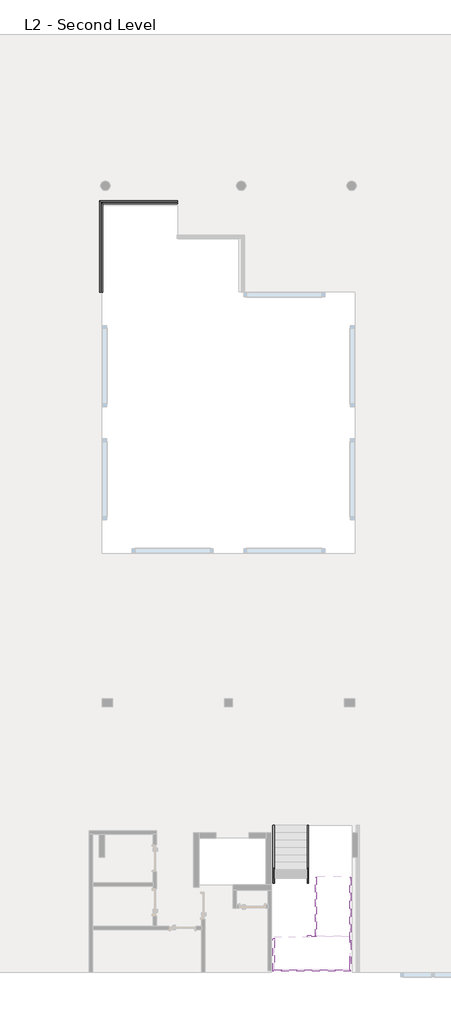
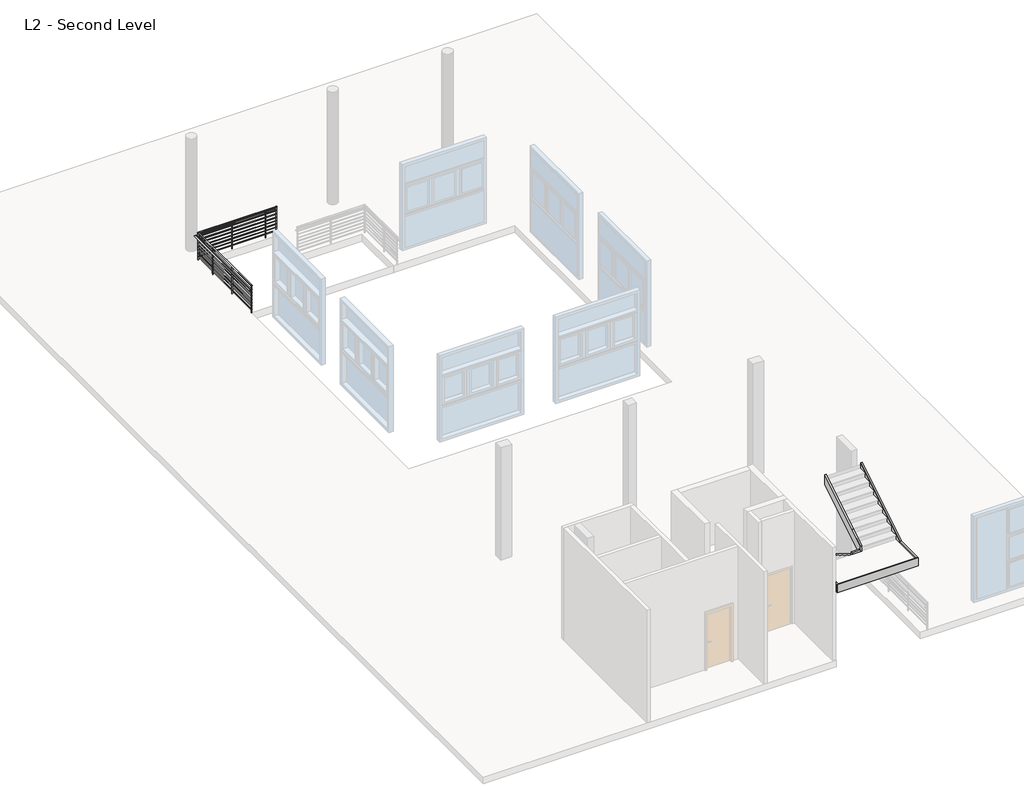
# One storey, part 3 of 3: 8 members, 1 railing.
"""IFC4 building model written with IfcOpenShell, lengths in millimetres."""

from ifc_helpers import new_model, si_unit, point, frame, frame_2d, origin, place, context, project, spatial, polyline, circle_curve, ellipse_curve, trimmed, segment, composite_curve, outline, extrude, faceted_brep, element, save
from ifc_brep_helpers import plane_surface, cylinder_surface, advanced_brep

model = new_model("IFC4")

# Units and contexts
model_context = context("Model", 3, world=origin())
ifc_project = project(units=[si_unit("LENGTHUNIT", "METRE", prefix="MILLI")], contexts=[model_context])

# Site, building, storey
site = spatial("IfcSite", under=ifc_project)
building = spatial("IfcBuilding", under=site)
storey = spatial("IfcBuildingStorey", under=building, Name="L2 - Second Level", Elevation=4470.4)

# Members
placement = place(None, origin())
element("IfcMember", 1, ObjectType="Stringer - 2\" Width", at=placement, inside=storey, context=model_context, shape_type="Brep", body=[
    faceted_brep([(17449.8060671, 6197.5997725, 4470.4), (17500.6060671, 6197.5997725, 4470.4), (17500.6060671, 5962.9100242, 4470.4), (17449.8060671, 5962.9100242, 4470.4), (17449.8060671, 6197.5997725, 4683.6566451), (17500.6060671, 6197.5997725, 4683.6566451), (17449.8060671, 2057.3997725, 7243.0530088), (17500.6060671, 2057.399805, 7243.0529887), (17500.6060671, 2057.399805, 6884.7154082), (17449.8060671, 2057.3997725, 6884.7154283)], [[[0, 1, 2, 3]], [[4, 5, 1, 0]], [[5, 4, 6, 7]], [[1, 5, 7, 8, 2]], [[4, 0, 3, 9, 6]], [[2, 8, 9, 3]], [[6, 9, 8, 7]]]),
])
element("IfcMember", 2, ObjectType="Stringer - 2\" Width", at=placement, inside=storey, context=model_context, shape_type="SweptSolid", body=[
    extrude(outline(polyline([(6197.5997725, 4683.6566451), (6197.5997725, 4470.4), (5962.9100242, 4470.4), (1862.3041418, 7005.32), (1948.9090514, 7310.12), (6197.5997725, 4683.6566451)])), frame((16167.1060672, 0.0, 0.0), z_axis=(1.0, 0.0, 0.0), x_axis=(0.0, 1.0, 0.0)), (0.0, 0.0, 1.0), 50.8),
])
element("IfcMember", 3, ObjectType="Stringer - 2\" Width", at=placement, inside=storey, context=model_context, shape_type="Brep", body=[
    faceted_brep([(17805.4060672, 4241.8, 8828.9366451), (17805.4060672, 4241.8, 8470.5990647), (17754.6060672, 4241.8, 8470.5990647), (17754.6060672, 4241.8, 8828.9366451), (17754.6060672, 2006.5999675, 7447.176625), (17805.4060672, 2006.6, 7447.1766451), (17754.6060672, 2006.5999675, 7088.8390446), (17805.4060672, 2006.6, 7088.8390647)], [[[0, 1, 2, 3]], [[4, 5, 0, 3]], [[6, 4, 3, 2]], [[7, 6, 2, 1]], [[5, 7, 1, 0]], [[5, 4, 6, 7]]]),
])
element("IfcMember", 4, ObjectType="Stringer - 2\" Width", at=placement, inside=storey, context=model_context, shape_type="SweptSolid", body=[
    extrude(outline(polyline([(1871.4956307, 7005.32), (1784.8907211, 7310.12), (4241.8, 8828.9366451), (4241.8, 8470.5990647), (1871.4956307, 7005.32)])), frame((19057.4642027, 0.0, 0.0), z_axis=(1.0, 0.0, 0.0), x_axis=(0.0, 1.0, 0.0)), (0.0, 0.0, 1.0), 50.8),
])
element("IfcMember", 5, ObjectType="Stringer - 2\" Width", at=placement, inside=storey, context=model_context, shape_type="SweptSolid", body=[
    extrude(outline(polyline([(17754.6060672, 2057.3999675), (17754.6060672, 2006.5999675), (17449.8060671, 2006.5997725), (17449.8060671, 2057.3997725), (17754.6060672, 2057.3999675)])), frame((0.0, 0.0, 7005.32), z_axis=(0.0, 0.0, 1.0), x_axis=(1.0, 0.0, 0.0)), (0.0, 0.0, 1.0), 304.8),
])
element("IfcMember", 6, ObjectType="Stringer - 2\" Width", at=placement, inside=storey, context=model_context, shape_type="Brep", body=[
    faceted_brep([(16217.9060672, 1948.9090514, 7310.12), (16167.1060672, 1948.9090514, 7310.12), (16167.1060672, 704.85, 7310.12), (16217.9060672, 755.65, 7310.12), (16217.9060672, 1862.3041418, 7005.32), (16217.9060672, 755.65, 7005.32), (16167.1060672, 1862.3041418, 7005.32), (16167.1060672, 704.85, 7005.32)], [[[0, 1, 2, 3]], [[4, 0, 3, 5]], [[6, 4, 5, 7]], [[1, 6, 7, 2]], [[1, 0, 4, 6]], [[2, 7, 5, 3]]]),
])
element("IfcMember", 7, ObjectType="Stringer - 2\" Width", at=placement, inside=storey, context=model_context, shape_type="SweptSolid", body=[
    extrude(outline(polyline([(16167.1060672, 704.85), (16217.9060672, 755.65), (19057.4642027, 755.65), (19108.2642027, 704.85), (16167.1060672, 704.85)])), frame((0.0, 0.0, 7005.32), z_axis=(0.0, 0.0, 1.0), x_axis=(1.0, 0.0, 0.0)), (0.0, 0.0, 1.0), 304.8),
])
element("IfcMember", 8, ObjectType="Stringer - 2\" Width", at=placement, inside=storey, context=model_context, shape_type="Brep", body=[
    faceted_brep([(19057.4642027, 755.65, 7310.12), (19108.2642027, 704.85, 7310.12), (19108.2642027, 1784.8907211, 7310.12), (19057.4642027, 1784.8907211, 7310.12), (19057.4642027, 755.65, 7005.32), (19057.4642027, 1871.4956307, 7005.32), (19108.2642027, 704.85, 7005.32), (19108.2642027, 1871.4956307, 7005.32)], [[[0, 1, 2, 3]], [[4, 0, 3, 5]], [[6, 4, 5, 7]], [[1, 6, 7, 2]], [[1, 0, 4, 6]], [[2, 7, 5, 3]]]),
])

# Railing
element("IfcRailing", 9, ObjectType="Guardrail - Pipe", at=placement, inside=storey, context=model_context, shape_type="SolidModel", body=[
    advanced_brep(
    [(9645.6500088, 26314.3998757, 5365.75), (9607.5500088, 26314.3998757, 5365.75), (9645.6500088, 29724.3498757, 5365.75), (9607.5500088, 29762.4498757, 5365.75), (12547.6000088, 29724.3498757, 5365.75), (12547.6000088, 29762.4498757, 5365.75)],
    [
        (0, 1, circle_curve(frame((9626.6000088, 26314.3998757, 5365.75), z_axis=(0.0, -1.0, 0.0), x_axis=(-1.0, 0.0, 0.0)), 19.05)),
        (1, 0, circle_curve(frame((9626.6000088, 26314.3998757, 5365.75), z_axis=(0.0, -1.0, 0.0), x_axis=(-1.0, 0.0, 0.0)), 19.05)),
        (0, 2),
        (2, 3, ellipse_curve(frame((9626.6000088, 29743.3998757, 5365.75), z_axis=(-0.7071067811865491, -0.7071067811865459, 0.0), x_axis=(0.7071067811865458, -0.7071067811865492, 0.0)), 26.9407684, 19.05)),
        (3, 1),
        (3, 2, ellipse_curve(frame((9626.6000088, 29743.3998757, 5365.75), z_axis=(-0.7071067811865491, -0.7071067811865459, 0.0), x_axis=(0.7071067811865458, -0.7071067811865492, 0.0)), 26.9407684, 19.05)),
        (4, 5, circle_curve(frame((12547.6000088, 29743.3998757, 5365.75), z_axis=(1.0, 0.0, 0.0), x_axis=(0.0, 1.0, 0.0)), 19.05)),
        (5, 4, circle_curve(frame((12547.6000088, 29743.3998757, 5365.75), z_axis=(1.0, 0.0, 0.0), x_axis=(0.0, 1.0, 0.0)), 19.05)),
        (2, 4),
        (5, 3),
    ],
    [
        plane_surface(frame((9626.6000088, 26314.3998757, 5384.8), z_axis=(0.0, -1.0, 0.0), x_axis=(0.0, 0.0, 1.0))),
        cylinder_surface(frame((9626.6000088, 26314.3998757, 5365.75), z_axis=(0.0, -1.0, 0.0), x_axis=(-1.0, 0.0, 0.0)), 19.05),
        plane_surface(frame((12547.6000088, 29743.3998757, 5384.8), z_axis=(1.0, 0.0, 0.0), x_axis=(0.0, 1.0, 0.0))),
        cylinder_surface(frame((9626.6000088, 29743.3998757, 5365.75), z_axis=(-1.0, 0.0, 0.0), x_axis=(0.0, 1.0, 0.0)), 19.05),
    ],
    [
        (0, [[1, 2]]),
        (1, [[-1, 3, 4, 5]]),
        (1, [[-2, -5, 6, -3]]),
        (2, [[7, 8]]),
        (3, [[-4, 9, -8, 10]]),
        (3, [[-6, -10, -7, -9]]),
    ],
),
    advanced_brep(
    [(9721.8500088, 26314.3998757, 5518.15), (9683.7500088, 26314.3998757, 5518.15), (9721.8500088, 29648.1498757, 5518.15), (9683.7500088, 29686.2498757, 5518.15), (12547.6000088, 29648.1498757, 5518.15), (12547.6000088, 29686.2498757, 5518.15)],
    [
        (0, 1, circle_curve(frame((9702.8000088, 26314.3998757, 5518.15), z_axis=(0.0, -1.0, 0.0), x_axis=(-1.0, 0.0, 0.0)), 19.05)),
        (1, 0, circle_curve(frame((9702.8000088, 26314.3998757, 5518.15), z_axis=(0.0, -1.0, 0.0), x_axis=(-1.0, 0.0, 0.0)), 19.05)),
        (0, 2),
        (2, 3, ellipse_curve(frame((9702.8000088, 29667.1998757, 5518.15), z_axis=(-0.7071067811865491, -0.7071067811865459, 0.0), x_axis=(0.7071067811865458, -0.7071067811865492, 0.0)), 26.9407684, 19.05)),
        (3, 1),
        (3, 2, ellipse_curve(frame((9702.8000088, 29667.1998757, 5518.15), z_axis=(-0.7071067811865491, -0.7071067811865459, 0.0), x_axis=(0.7071067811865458, -0.7071067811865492, 0.0)), 26.9407684, 19.05)),
        (4, 5, circle_curve(frame((12547.6000088, 29667.1998757, 5518.15), z_axis=(1.0, 0.0, 0.0), x_axis=(0.0, 1.0, 0.0)), 19.05)),
        (5, 4, circle_curve(frame((12547.6000088, 29667.1998757, 5518.15), z_axis=(1.0, 0.0, 0.0), x_axis=(0.0, 1.0, 0.0)), 19.05)),
        (2, 4),
        (5, 3),
    ],
    [
        plane_surface(frame((9702.8000088, 26314.3998757, 5537.2), z_axis=(0.0, -1.0, 0.0), x_axis=(0.0, 0.0, 1.0))),
        cylinder_surface(frame((9702.8000088, 26314.3998757, 5518.15), z_axis=(0.0, -1.0, 0.0), x_axis=(-1.0, 0.0, 0.0)), 19.05),
        plane_surface(frame((12547.6000088, 29667.1998757, 5537.2), z_axis=(1.0, 0.0, 0.0), x_axis=(0.0, 1.0, 0.0))),
        cylinder_surface(frame((9702.8000088, 29667.1998757, 5518.15), z_axis=(-1.0, 0.0, 0.0), x_axis=(0.0, 1.0, 0.0)), 19.05),
    ],
    [
        (0, [[1, 2]]),
        (1, [[-1, 3, 4, 5]]),
        (1, [[-2, -5, 6, -3]]),
        (2, [[7, 8]]),
        (3, [[-4, 9, -8, 10]]),
        (3, [[-6, -10, -7, -9]]),
    ],
),
    advanced_brep(
    [(9690.1000088, 26314.3998757, 5372.1), (9715.5000088, 26314.3998757, 5372.1), (9690.1000088, 29679.8998757, 5372.1), (9715.5000088, 29654.4998757, 5372.1), (12547.6000088, 29679.8998757, 5372.1), (12547.6000088, 29654.4998757, 5372.1)],
    [
        (0, 1, circle_curve(frame((9702.8000088, 26314.3998757, 5372.1), z_axis=(0.0, -1.0, 0.0), x_axis=(1.0, 0.0, 0.0)), 12.7)),
        (1, 0, circle_curve(frame((9702.8000088, 26314.3998757, 5372.1), z_axis=(0.0, -1.0, 0.0), x_axis=(1.0, 0.0, 0.0)), 12.7)),
        (0, 2),
        (2, 3, ellipse_curve(frame((9702.8000088, 29667.1998757, 5372.1), z_axis=(-0.7071067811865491, -0.7071067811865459, 0.0), x_axis=(0.7071067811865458, -0.7071067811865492, 0.0)), 17.9605122, 12.7)),
        (3, 1),
        (3, 2, ellipse_curve(frame((9702.8000088, 29667.1998757, 5372.1), z_axis=(-0.7071067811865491, -0.7071067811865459, 0.0), x_axis=(0.7071067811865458, -0.7071067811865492, 0.0)), 17.9605122, 12.7)),
        (4, 5, circle_curve(frame((12547.6000088, 29667.1998757, 5372.1), z_axis=(1.0, 0.0, 0.0), x_axis=(0.0, -1.0, 0.0)), 12.7)),
        (5, 4, circle_curve(frame((12547.6000088, 29667.1998757, 5372.1), z_axis=(1.0, 0.0, 0.0), x_axis=(0.0, -1.0, 0.0)), 12.7)),
        (2, 4),
        (5, 3),
    ],
    [
        plane_surface(frame((9702.8000088, 26314.3998757, 5384.8), z_axis=(0.0, -1.0, 0.0), x_axis=(0.0, 0.0, 1.0))),
        cylinder_surface(frame((9702.8000088, 26314.3998757, 5372.1), z_axis=(0.0, -1.0, 0.0), x_axis=(1.0, 0.0, 0.0)), 12.7),
        plane_surface(frame((12547.6000088, 29667.1998757, 5384.8), z_axis=(1.0, 0.0, 0.0), x_axis=(0.0, 1.0, 0.0))),
        cylinder_surface(frame((9702.8000088, 29667.1998757, 5372.1), z_axis=(-1.0, 0.0, 0.0), x_axis=(0.0, -1.0, 0.0)), 12.7),
    ],
    [
        (0, [[1, 2]]),
        (1, [[-1, 3, 4, 5]]),
        (1, [[-2, -5, 6, -3]]),
        (2, [[7, 8]]),
        (3, [[-4, 9, -8, 10]]),
        (3, [[-6, -10, -7, -9]]),
    ],
),
    advanced_brep(
    [(9690.1000088, 26314.3998757, 5245.1), (9715.5000088, 26314.3998757, 5245.1), (9690.1000088, 29679.8998757, 5245.1), (9715.5000088, 29654.4998757, 5245.1), (12547.6000088, 29679.8998757, 5245.1), (12547.6000088, 29654.4998757, 5245.1)],
    [
        (0, 1, circle_curve(frame((9702.8000088, 26314.3998757, 5245.1), z_axis=(0.0, -1.0, 0.0), x_axis=(1.0, 0.0, 0.0)), 12.7)),
        (1, 0, circle_curve(frame((9702.8000088, 26314.3998757, 5245.1), z_axis=(0.0, -1.0, 0.0), x_axis=(1.0, 0.0, 0.0)), 12.7)),
        (0, 2),
        (2, 3, ellipse_curve(frame((9702.8000088, 29667.1998757, 5245.1), z_axis=(-0.7071067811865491, -0.7071067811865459, 0.0), x_axis=(0.7071067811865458, -0.7071067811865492, 0.0)), 17.9605122, 12.7)),
        (3, 1),
        (3, 2, ellipse_curve(frame((9702.8000088, 29667.1998757, 5245.1), z_axis=(-0.7071067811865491, -0.7071067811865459, 0.0), x_axis=(0.7071067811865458, -0.7071067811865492, 0.0)), 17.9605122, 12.7)),
        (4, 5, circle_curve(frame((12547.6000088, 29667.1998757, 5245.1), z_axis=(1.0, 0.0, 0.0), x_axis=(0.0, -1.0, 0.0)), 12.7)),
        (5, 4, circle_curve(frame((12547.6000088, 29667.1998757, 5245.1), z_axis=(1.0, 0.0, 0.0), x_axis=(0.0, -1.0, 0.0)), 12.7)),
        (2, 4),
        (5, 3),
    ],
    [
        plane_surface(frame((9702.8000088, 26314.3998757, 5257.8), z_axis=(0.0, -1.0, 0.0), x_axis=(0.0, 0.0, 1.0))),
        cylinder_surface(frame((9702.8000088, 26314.3998757, 5245.1), z_axis=(0.0, -1.0, 0.0), x_axis=(1.0, 0.0, 0.0)), 12.7),
        plane_surface(frame((12547.6000088, 29667.1998757, 5257.8), z_axis=(1.0, 0.0, 0.0), x_axis=(0.0, 1.0, 0.0))),
        cylinder_surface(frame((9702.8000088, 29667.1998757, 5245.1), z_axis=(-1.0, 0.0, 0.0), x_axis=(0.0, -1.0, 0.0)), 12.7),
    ],
    [
        (0, [[1, 2]]),
        (1, [[-1, 3, 4, 5]]),
        (1, [[-2, -5, 6, -3]]),
        (2, [[7, 8]]),
        (3, [[-4, 9, -8, 10]]),
        (3, [[-6, -10, -7, -9]]),
    ],
),
    advanced_brep(
    [(9690.1000088, 26314.3998757, 5118.1), (9715.5000088, 26314.3998757, 5118.1), (9690.1000088, 29679.8998757, 5118.1), (9715.5000088, 29654.4998757, 5118.1), (12547.6000088, 29679.8998757, 5118.1), (12547.6000088, 29654.4998757, 5118.1)],
    [
        (0, 1, circle_curve(frame((9702.8000088, 26314.3998757, 5118.1), z_axis=(0.0, -1.0, 0.0), x_axis=(1.0, 0.0, 0.0)), 12.7)),
        (1, 0, circle_curve(frame((9702.8000088, 26314.3998757, 5118.1), z_axis=(0.0, -1.0, 0.0), x_axis=(1.0, 0.0, 0.0)), 12.7)),
        (0, 2),
        (2, 3, ellipse_curve(frame((9702.8000088, 29667.1998757, 5118.1), z_axis=(-0.7071067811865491, -0.7071067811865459, 0.0), x_axis=(0.7071067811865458, -0.7071067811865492, 0.0)), 17.9605122, 12.7)),
        (3, 1),
        (3, 2, ellipse_curve(frame((9702.8000088, 29667.1998757, 5118.1), z_axis=(-0.7071067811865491, -0.7071067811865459, 0.0), x_axis=(0.7071067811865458, -0.7071067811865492, 0.0)), 17.9605122, 12.7)),
        (4, 5, circle_curve(frame((12547.6000088, 29667.1998757, 5118.1), z_axis=(1.0, 0.0, 0.0), x_axis=(0.0, -1.0, 0.0)), 12.7)),
        (5, 4, circle_curve(frame((12547.6000088, 29667.1998757, 5118.1), z_axis=(1.0, 0.0, 0.0), x_axis=(0.0, -1.0, 0.0)), 12.7)),
        (2, 4),
        (5, 3),
    ],
    [
        plane_surface(frame((9702.8000088, 26314.3998757, 5130.8), z_axis=(0.0, -1.0, 0.0), x_axis=(0.0, 0.0, 1.0))),
        cylinder_surface(frame((9702.8000088, 26314.3998757, 5118.1), z_axis=(0.0, -1.0, 0.0), x_axis=(1.0, 0.0, 0.0)), 12.7),
        plane_surface(frame((12547.6000088, 29667.1998757, 5130.8), z_axis=(1.0, 0.0, 0.0), x_axis=(0.0, 1.0, 0.0))),
        cylinder_surface(frame((9702.8000088, 29667.1998757, 5118.1), z_axis=(-1.0, 0.0, 0.0), x_axis=(0.0, -1.0, 0.0)), 12.7),
    ],
    [
        (0, [[1, 2]]),
        (1, [[-1, 3, 4, 5]]),
        (1, [[-2, -5, 6, -3]]),
        (2, [[7, 8]]),
        (3, [[-4, 9, -8, 10]]),
        (3, [[-6, -10, -7, -9]]),
    ],
),
    advanced_brep(
    [(9690.1000088, 26314.3998757, 4991.1), (9715.5000088, 26314.3998757, 4991.1), (9690.1000088, 29679.8998757, 4991.1), (9715.5000088, 29654.4998757, 4991.1), (12547.6000088, 29679.8998757, 4991.1), (12547.6000088, 29654.4998757, 4991.1)],
    [
        (0, 1, circle_curve(frame((9702.8000088, 26314.3998757, 4991.1), z_axis=(0.0, -1.0, 0.0), x_axis=(1.0, 0.0, 0.0)), 12.7)),
        (1, 0, circle_curve(frame((9702.8000088, 26314.3998757, 4991.1), z_axis=(0.0, -1.0, 0.0), x_axis=(1.0, 0.0, 0.0)), 12.7)),
        (0, 2),
        (2, 3, ellipse_curve(frame((9702.8000088, 29667.1998757, 4991.1), z_axis=(-0.7071067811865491, -0.7071067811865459, 0.0), x_axis=(0.7071067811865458, -0.7071067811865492, 0.0)), 17.9605122, 12.7)),
        (3, 1),
        (3, 2, ellipse_curve(frame((9702.8000088, 29667.1998757, 4991.1), z_axis=(-0.7071067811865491, -0.7071067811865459, 0.0), x_axis=(0.7071067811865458, -0.7071067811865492, 0.0)), 17.9605122, 12.7)),
        (4, 5, circle_curve(frame((12547.6000088, 29667.1998757, 4991.1), z_axis=(1.0, 0.0, 0.0), x_axis=(0.0, -1.0, 0.0)), 12.7)),
        (5, 4, circle_curve(frame((12547.6000088, 29667.1998757, 4991.1), z_axis=(1.0, 0.0, 0.0), x_axis=(0.0, -1.0, 0.0)), 12.7)),
        (2, 4),
        (5, 3),
    ],
    [
        plane_surface(frame((9702.8000088, 26314.3998757, 5003.8), z_axis=(0.0, -1.0, 0.0), x_axis=(0.0, 0.0, 1.0))),
        cylinder_surface(frame((9702.8000088, 26314.3998757, 4991.1), z_axis=(0.0, -1.0, 0.0), x_axis=(1.0, 0.0, 0.0)), 12.7),
        plane_surface(frame((12547.6000088, 29667.1998757, 5003.8), z_axis=(1.0, 0.0, 0.0), x_axis=(0.0, 1.0, 0.0))),
        cylinder_surface(frame((9702.8000088, 29667.1998757, 4991.1), z_axis=(-1.0, 0.0, 0.0), x_axis=(0.0, -1.0, 0.0)), 12.7),
    ],
    [
        (0, [[1, 2]]),
        (1, [[-1, 3, 4, 5]]),
        (1, [[-2, -5, 6, -3]]),
        (2, [[7, 8]]),
        (3, [[-4, 9, -8, 10]]),
        (3, [[-6, -10, -7, -9]]),
    ],
),
    advanced_brep(
    [(9690.1000088, 26314.3998757, 4864.1), (9715.5000088, 26314.3998757, 4864.1), (9690.1000088, 29679.8998757, 4864.1), (9715.5000088, 29654.4998757, 4864.1), (12547.6000088, 29679.8998757, 4864.1), (12547.6000088, 29654.4998757, 4864.1)],
    [
        (0, 1, circle_curve(frame((9702.8000088, 26314.3998757, 4864.1), z_axis=(0.0, -1.0, 0.0), x_axis=(1.0, 0.0, 0.0)), 12.7)),
        (1, 0, circle_curve(frame((9702.8000088, 26314.3998757, 4864.1), z_axis=(0.0, -1.0, 0.0), x_axis=(1.0, 0.0, 0.0)), 12.7)),
        (0, 2),
        (2, 3, ellipse_curve(frame((9702.8000088, 29667.1998757, 4864.1), z_axis=(-0.7071067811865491, -0.7071067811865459, 0.0), x_axis=(0.7071067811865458, -0.7071067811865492, 0.0)), 17.9605122, 12.7)),
        (3, 1),
        (3, 2, ellipse_curve(frame((9702.8000088, 29667.1998757, 4864.1), z_axis=(-0.7071067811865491, -0.7071067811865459, 0.0), x_axis=(0.7071067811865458, -0.7071067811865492, 0.0)), 17.9605122, 12.7)),
        (4, 5, circle_curve(frame((12547.6000088, 29667.1998757, 4864.1), z_axis=(1.0, 0.0, 0.0), x_axis=(0.0, -1.0, 0.0)), 12.7)),
        (5, 4, circle_curve(frame((12547.6000088, 29667.1998757, 4864.1), z_axis=(1.0, 0.0, 0.0), x_axis=(0.0, -1.0, 0.0)), 12.7)),
        (2, 4),
        (5, 3),
    ],
    [
        plane_surface(frame((9702.8000088, 26314.3998757, 4876.8), z_axis=(0.0, -1.0, 0.0), x_axis=(0.0, 0.0, 1.0))),
        cylinder_surface(frame((9702.8000088, 26314.3998757, 4864.1), z_axis=(0.0, -1.0, 0.0), x_axis=(1.0, 0.0, 0.0)), 12.7),
        plane_surface(frame((12547.6000088, 29667.1998757, 4876.8), z_axis=(1.0, 0.0, 0.0), x_axis=(0.0, 1.0, 0.0))),
        cylinder_surface(frame((9702.8000088, 29667.1998757, 4864.1), z_axis=(-1.0, 0.0, 0.0), x_axis=(0.0, -1.0, 0.0)), 12.7),
    ],
    [
        (0, [[1, 2]]),
        (1, [[-1, 3, 4, 5]]),
        (1, [[-2, -5, 6, -3]]),
        (2, [[7, 8]]),
        (3, [[-4, 9, -8, 10]]),
        (3, [[-6, -10, -7, -9]]),
    ],
),
    advanced_brep(
    [(9690.1000088, 26314.3998757, 4737.1), (9715.5000088, 26314.3998757, 4737.1), (9690.1000088, 29679.8998757, 4737.1), (9715.5000088, 29654.4998757, 4737.1), (12547.6000088, 29679.8998757, 4737.1), (12547.6000088, 29654.4998757, 4737.1)],
    [
        (0, 1, circle_curve(frame((9702.8000088, 26314.3998757, 4737.1), z_axis=(0.0, -1.0, 0.0), x_axis=(1.0, 0.0, 0.0)), 12.7)),
        (1, 0, circle_curve(frame((9702.8000088, 26314.3998757, 4737.1), z_axis=(0.0, -1.0, 0.0), x_axis=(1.0, 0.0, 0.0)), 12.7)),
        (0, 2),
        (2, 3, ellipse_curve(frame((9702.8000088, 29667.1998757, 4737.1), z_axis=(-0.7071067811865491, -0.7071067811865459, 0.0), x_axis=(0.7071067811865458, -0.7071067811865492, 0.0)), 17.9605122, 12.7)),
        (3, 1),
        (3, 2, ellipse_curve(frame((9702.8000088, 29667.1998757, 4737.1), z_axis=(-0.7071067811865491, -0.7071067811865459, 0.0), x_axis=(0.7071067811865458, -0.7071067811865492, 0.0)), 17.9605122, 12.7)),
        (4, 5, circle_curve(frame((12547.6000088, 29667.1998757, 4737.1), z_axis=(1.0, 0.0, 0.0), x_axis=(0.0, -1.0, 0.0)), 12.7)),
        (5, 4, circle_curve(frame((12547.6000088, 29667.1998757, 4737.1), z_axis=(1.0, 0.0, 0.0), x_axis=(0.0, -1.0, 0.0)), 12.7)),
        (2, 4),
        (5, 3),
    ],
    [
        plane_surface(frame((9702.8000088, 26314.3998757, 4749.8), z_axis=(0.0, -1.0, 0.0), x_axis=(0.0, 0.0, 1.0))),
        cylinder_surface(frame((9702.8000088, 26314.3998757, 4737.1), z_axis=(0.0, -1.0, 0.0), x_axis=(1.0, 0.0, 0.0)), 12.7),
        plane_surface(frame((12547.6000088, 29667.1998757, 4749.8), z_axis=(1.0, 0.0, 0.0), x_axis=(0.0, 1.0, 0.0))),
        cylinder_surface(frame((9702.8000088, 29667.1998757, 4737.1), z_axis=(-1.0, 0.0, 0.0), x_axis=(0.0, -1.0, 0.0)), 12.7),
    ],
    [
        (0, [[1, 2]]),
        (1, [[-1, 3, 4, 5]]),
        (1, [[-2, -5, 6, -3]]),
        (2, [[7, 8]]),
        (3, [[-4, 9, -8, 10]]),
        (3, [[-6, -10, -7, -9]]),
    ],
),
    advanced_brep(
    [(9690.1000088, 26314.3998757, 4610.1), (9715.5000088, 26314.3998757, 4610.1), (9690.1000088, 29679.8998757, 4610.1), (9715.5000088, 29654.4998757, 4610.1), (12547.6000088, 29679.8998757, 4610.1), (12547.6000088, 29654.4998757, 4610.1)],
    [
        (0, 1, circle_curve(frame((9702.8000088, 26314.3998757, 4610.1), z_axis=(0.0, -1.0, 0.0), x_axis=(1.0, 0.0, 0.0)), 12.7)),
        (1, 0, circle_curve(frame((9702.8000088, 26314.3998757, 4610.1), z_axis=(0.0, -1.0, 0.0), x_axis=(1.0, 0.0, 0.0)), 12.7)),
        (0, 2),
        (2, 3, ellipse_curve(frame((9702.8000088, 29667.1998757, 4610.1), z_axis=(-0.7071067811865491, -0.7071067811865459, 0.0), x_axis=(0.7071067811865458, -0.7071067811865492, 0.0)), 17.9605122, 12.7)),
        (3, 1),
        (3, 2, ellipse_curve(frame((9702.8000088, 29667.1998757, 4610.1), z_axis=(-0.7071067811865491, -0.7071067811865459, 0.0), x_axis=(0.7071067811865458, -0.7071067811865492, 0.0)), 17.9605122, 12.7)),
        (4, 5, circle_curve(frame((12547.6000088, 29667.1998757, 4610.1), z_axis=(1.0, 0.0, 0.0), x_axis=(0.0, -1.0, 0.0)), 12.7)),
        (5, 4, circle_curve(frame((12547.6000088, 29667.1998757, 4610.1), z_axis=(1.0, 0.0, 0.0), x_axis=(0.0, -1.0, 0.0)), 12.7)),
        (2, 4),
        (5, 3),
    ],
    [
        plane_surface(frame((9702.8000088, 26314.3998757, 4622.8), z_axis=(0.0, -1.0, 0.0), x_axis=(0.0, 0.0, 1.0))),
        cylinder_surface(frame((9702.8000088, 26314.3998757, 4610.1), z_axis=(0.0, -1.0, 0.0), x_axis=(1.0, 0.0, 0.0)), 12.7),
        plane_surface(frame((12547.6000088, 29667.1998757, 4622.8), z_axis=(1.0, 0.0, 0.0), x_axis=(0.0, 1.0, 0.0))),
        cylinder_surface(frame((9702.8000088, 29667.1998757, 4610.1), z_axis=(-1.0, 0.0, 0.0), x_axis=(0.0, -1.0, 0.0)), 12.7),
    ],
    [
        (0, [[1, 2]]),
        (1, [[-1, 3, 4, 5]]),
        (1, [[-2, -5, 6, -3]]),
        (2, [[7, 8]]),
        (3, [[-4, 9, -8, 10]]),
        (3, [[-6, -10, -7, -9]]),
    ],
),
    extrude(outline(composite_curve([segment(trimmed(circle_curve(frame_2d((12141.2000088, 29667.1998757)), 12.7), [point((12141.2000088, 29679.8998757))], [point((12141.2000088, 29654.4998757))], False, "CARTESIAN"), True, "CONTINUOUS"), segment(trimmed(circle_curve(frame_2d((12141.2000088, 29667.1998757)), 12.7), [point((12141.2000088, 29654.4998757))], [point((12141.2000088, 29679.8998757))], False, "CARTESIAN"), True, "CONTINUOUS")], self_intersect=False)), frame((0.0, 0.0, 4470.4), z_axis=(0.0, 0.0, 1.0), x_axis=(1.0, 0.0, 0.0)), (0.0, 0.0, 1.0), 1028.7),
    extrude(outline(composite_curve([segment(trimmed(circle_curve(frame_2d((10922.0000088, 29667.1998757)), 12.7), [point((10922.0000088, 29679.8998757))], [point((10922.0000088, 29654.4998757))], False, "CARTESIAN"), True, "CONTINUOUS"), segment(trimmed(circle_curve(frame_2d((10922.0000088, 29667.1998757)), 12.7), [point((10922.0000088, 29654.4998757))], [point((10922.0000088, 29679.8998757))], False, "CARTESIAN"), True, "CONTINUOUS")], self_intersect=False)), frame((0.0, 0.0, 4470.4), z_axis=(0.0, 0.0, 1.0), x_axis=(1.0, 0.0, 0.0)), (0.0, 0.0, 1.0), 1028.7),
    extrude(outline(composite_curve([segment(trimmed(circle_curve(frame_2d((9702.8000088, 28752.7998757)), 12.7), [point((9690.1000088, 28752.7998757))], [point((9715.5000088, 28752.7998757))], False, "CARTESIAN"), True, "CONTINUOUS"), segment(trimmed(circle_curve(frame_2d((9702.8000088, 28752.7998757)), 12.7), [point((9715.5000088, 28752.7998757))], [point((9690.1000088, 28752.7998757))], False, "CARTESIAN"), True, "CONTINUOUS")], self_intersect=False)), frame((0.0, 0.0, 4470.4), z_axis=(0.0, 0.0, 1.0), x_axis=(1.0, 0.0, 0.0)), (0.0, 0.0, 1.0), 1028.7),
    extrude(outline(composite_curve([segment(trimmed(circle_curve(frame_2d((9702.8000088, 27533.5998757)), 12.7), [point((9690.1000088, 27533.5998757))], [point((9715.5000088, 27533.5998757))], False, "CARTESIAN"), True, "CONTINUOUS"), segment(trimmed(circle_curve(frame_2d((9702.8000088, 27533.5998757)), 12.7), [point((9715.5000088, 27533.5998757))], [point((9690.1000088, 27533.5998757))], False, "CARTESIAN"), True, "CONTINUOUS")], self_intersect=False)), frame((0.0, 0.0, 4470.4), z_axis=(0.0, 0.0, 1.0), x_axis=(1.0, 0.0, 0.0)), (0.0, 0.0, 1.0), 1028.7),
    extrude(outline(composite_curve([segment(trimmed(circle_curve(frame_2d((9702.8000088, 29667.1998757)), 12.7), [point((9690.1000088, 29667.1998757))], [point((9715.5000088, 29667.1998757))], False, "CARTESIAN"), True, "CONTINUOUS"), segment(trimmed(circle_curve(frame_2d((9702.8000088, 29667.1998757)), 12.7), [point((9715.5000088, 29667.1998757))], [point((9690.1000088, 29667.1998757))], False, "CARTESIAN"), True, "CONTINUOUS")], self_intersect=False)), frame((0.0, 0.0, 4470.4), z_axis=(0.0, 0.0, 1.0), x_axis=(1.0, 0.0, 0.0)), (0.0, 0.0, 1.0), 1028.7),
    extrude(outline(composite_curve([segment(trimmed(circle_curve(frame_2d((12534.9000088, 29667.1998757)), 12.7), [point((12534.9000088, 29679.8998757))], [point((12534.9000088, 29654.4998757))], False, "CARTESIAN"), True, "CONTINUOUS"), segment(trimmed(circle_curve(frame_2d((12534.9000088, 29667.1998757)), 12.7), [point((12534.9000088, 29654.4998757))], [point((12534.9000088, 29679.8998757))], False, "CARTESIAN"), True, "CONTINUOUS")], self_intersect=False)), frame((0.0, 0.0, 4470.4), z_axis=(0.0, 0.0, 1.0), x_axis=(1.0, 0.0, 0.0)), (0.0, 0.0, 1.0), 1028.7),
    extrude(outline(composite_curve([segment(trimmed(circle_curve(frame_2d((9702.8000088, 26327.0998757)), 12.7), [point((9690.1000088, 26327.0998757))], [point((9715.5000088, 26327.0998757))], False, "CARTESIAN"), True, "CONTINUOUS"), segment(trimmed(circle_curve(frame_2d((9702.8000088, 26327.0998757)), 12.7), [point((9715.5000088, 26327.0998757))], [point((9690.1000088, 26327.0998757))], False, "CARTESIAN"), True, "CONTINUOUS")], self_intersect=False)), frame((0.0, 0.0, 4470.4), z_axis=(0.0, 0.0, 1.0), x_axis=(1.0, 0.0, 0.0)), (0.0, 0.0, 1.0), 1028.7),
])

save(model, "model.ifc")
